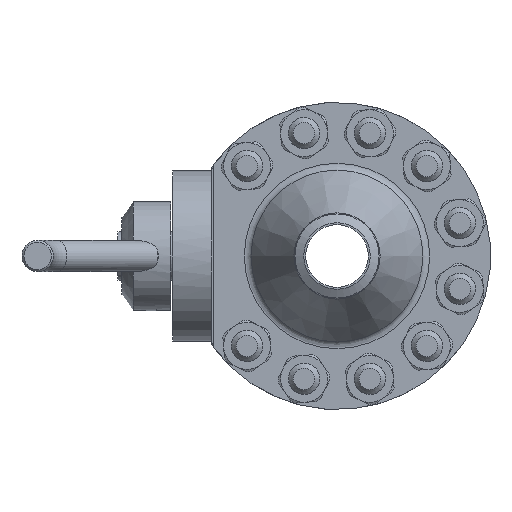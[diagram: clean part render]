
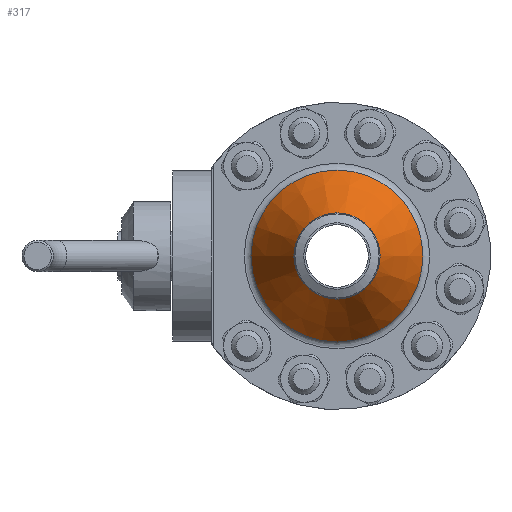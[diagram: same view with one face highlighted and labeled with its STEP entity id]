
A CAD part, left-side view. The second image highlights one B-rep face of the part: STEP entity #317.
In plain terms, the highlighted conical face has half-angle 30.018 degrees and reference radius 32.961 mm.
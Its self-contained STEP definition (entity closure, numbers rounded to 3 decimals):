
#317=ADVANCED_FACE('',(#4663),#4665,.T.);
#4663=FACE_OUTER_BOUND('',#4664,.T.);
#4664=EDGE_LOOP('',(#11332,#11333,#11334,#11335));
#4665=CONICAL_SURFACE('',#4666,32.961,0.524);
#4666=AXIS2_PLACEMENT_3D('',#4667,#4668,#4669);
#4667=CARTESIAN_POINT('',(-81.406,0.,0.));
#4668=DIRECTION('',(1.,0.,0.));
#4669=DIRECTION('',(0.,1.,0.));
#11332=ORIENTED_EDGE('',*,*,#16511,.T.);
#11333=ORIENTED_EDGE('',*,*,#16512,.T.);
#11334=ORIENTED_EDGE('',*,*,#16511,.F.);
#11335=ORIENTED_EDGE('',*,*,#16199,.F.);
#16199=EDGE_CURVE('',#18818,#18818,#18820,.T.);
#16511=EDGE_CURVE('',#18818,#19321,#19322,.T.);
#16512=EDGE_CURVE('',#19321,#19321,#19323,.T.);
#18818=VERTEX_POINT('',#25143);
#18820=CIRCLE('',#25148,43.885);
#19321=VERTEX_POINT('',#28052);
#19322=LINE('',#28053,#28054);
#19323=CIRCLE('',#28056,22.037);
#25143=CARTESIAN_POINT('',(-62.499,43.885,0.));
#25148=AXIS2_PLACEMENT_3D('',#25149,#25150,#25151);
#25149=CARTESIAN_POINT('',(-62.499,0.,0.));
#25150=DIRECTION('',(1.,0.,0.));
#25151=DIRECTION('',(0.,1.,0.));
#28052=CARTESIAN_POINT('',(-100.314,22.037,0.));
#28053=CARTESIAN_POINT('',(-62.499,43.885,0.));
#28054=VECTOR('',#28055,1.);
#28055=DIRECTION('',(-0.866,-0.5,0.));
#28056=AXIS2_PLACEMENT_3D('',#28057,#28058,#28059);
#28057=CARTESIAN_POINT('',(-100.314,0.,0.));
#28058=DIRECTION('',(1.,0.,0.));
#28059=DIRECTION('',(0.,1.,0.));
